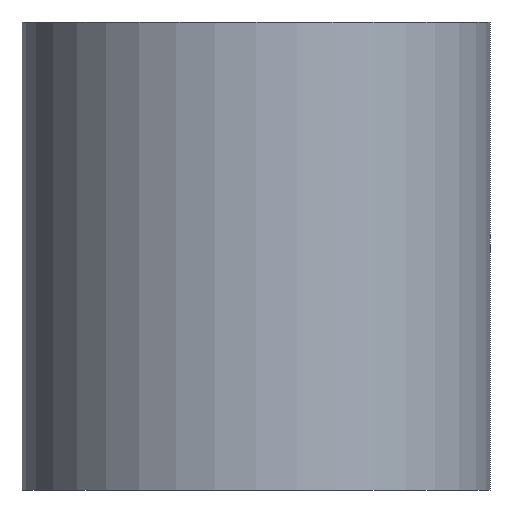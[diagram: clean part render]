
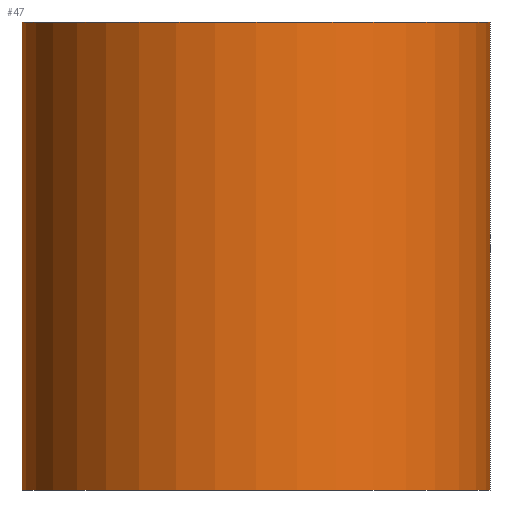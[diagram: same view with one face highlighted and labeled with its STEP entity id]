
A CAD part, front view. The second image highlights one B-rep face of the part: STEP entity #47.
In plain terms, the highlighted cylindrical face has radius 5 mm (diameter 10 mm), a partial arc.
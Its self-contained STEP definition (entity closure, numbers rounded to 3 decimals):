
#7 = DIRECTION ( 'NONE',  ( 0., 0., 1. ) ) ;
#17 = AXIS2_PLACEMENT_3D ( 'NONE', #195, #19, #97 ) ;
#19 = DIRECTION ( 'NONE',  ( 0., 0., 1. ) ) ;
#23 = EDGE_CURVE ( 'NONE', #126, #139, #32, .T. ) ;
#32 = CIRCLE ( 'NONE', #245, 5. ) ;
#35 = DIRECTION ( 'NONE',  ( 0., 0., 1. ) ) ;
#47 = ADVANCED_FACE ( 'NONE', ( #206 ), #241, .T. ) ;
#58 = DIRECTION ( 'NONE',  ( 1., 0., 0. ) ) ;
#63 = CARTESIAN_POINT ( 'NONE',  ( -5., 0., 10. ) ) ;
#66 = VECTOR ( 'NONE', #35, 1000. ) ;
#75 = CARTESIAN_POINT ( 'NONE',  ( 0., 0., 30. ) ) ;
#76 = LINE ( 'NONE', #116, #194 ) ;
#77 = DIRECTION ( 'NONE',  ( 0., 0., 1. ) ) ;
#81 = CARTESIAN_POINT ( 'NONE',  ( 5., 0., 10. ) ) ;
#90 = DIRECTION ( 'NONE',  ( 1., 0., 0. ) ) ;
#97 = DIRECTION ( 'NONE',  ( 1., 0., 0. ) ) ;
#101 = ORIENTED_EDGE ( 'NONE', *, *, #155, .T. ) ;
#111 = EDGE_CURVE ( 'NONE', #233, #126, #248, .T. ) ;
#116 = CARTESIAN_POINT ( 'NONE',  ( 5., 0., 30. ) ) ;
#121 = EDGE_LOOP ( 'NONE', ( #253, #201, #101, #122 ) ) ;
#122 = ORIENTED_EDGE ( 'NONE', *, *, #23, .F. ) ;
#124 = EDGE_CURVE ( 'NONE', #233, #202, #205, .T. ) ;
#126 = VERTEX_POINT ( 'NONE', #63 ) ;
#131 = CARTESIAN_POINT ( 'NONE',  ( -5., 0., 0. ) ) ;
#135 = CARTESIAN_POINT ( 'NONE',  ( 5., 0., 0. ) ) ;
#137 = AXIS2_PLACEMENT_3D ( 'NONE', #75, #7, #58 ) ;
#139 = VERTEX_POINT ( 'NONE', #81 ) ;
#155 = EDGE_CURVE ( 'NONE', #202, #139, #76, .T. ) ;
#158 = CARTESIAN_POINT ( 'NONE',  ( -5., 0., 30. ) ) ;
#173 = DIRECTION ( 'NONE',  ( 0., 0., 1. ) ) ;
#190 = CARTESIAN_POINT ( 'NONE',  ( 0., 0., 10. ) ) ;
#194 = VECTOR ( 'NONE', #77, 1000. ) ;
#195 = CARTESIAN_POINT ( 'NONE',  ( 0., 0., 0. ) ) ;
#201 = ORIENTED_EDGE ( 'NONE', *, *, #124, .T. ) ;
#202 = VERTEX_POINT ( 'NONE', #135 ) ;
#205 = CIRCLE ( 'NONE', #17, 5. ) ;
#206 = FACE_OUTER_BOUND ( 'NONE', #121, .T. ) ;
#233 = VERTEX_POINT ( 'NONE', #131 ) ;
#241 = CYLINDRICAL_SURFACE ( 'NONE', #137, 5. ) ;
#245 = AXIS2_PLACEMENT_3D ( 'NONE', #190, #173, #90 ) ;
#248 = LINE ( 'NONE', #158, #66 ) ;
#253 = ORIENTED_EDGE ( 'NONE', *, *, #111, .F. ) ;
